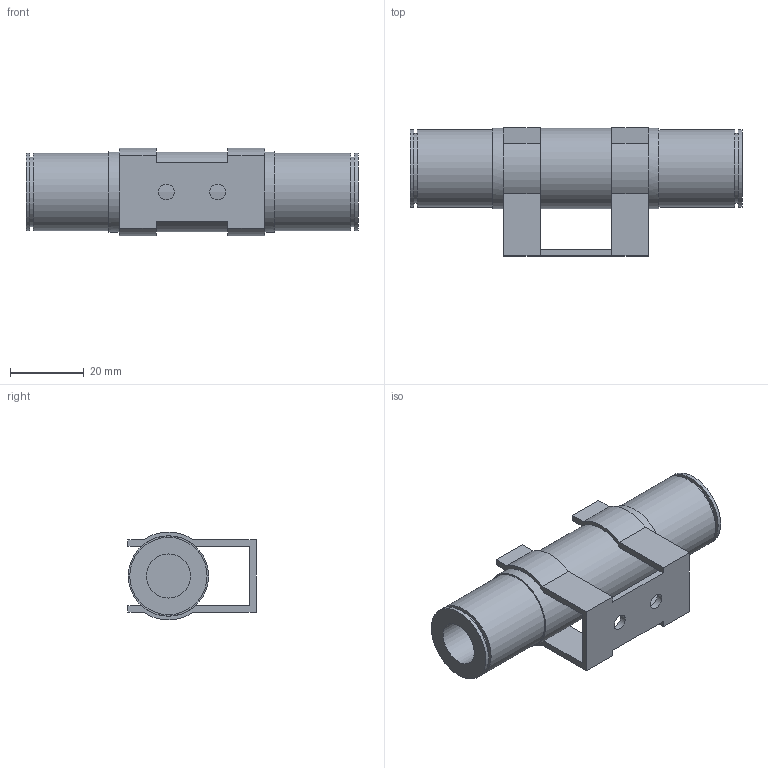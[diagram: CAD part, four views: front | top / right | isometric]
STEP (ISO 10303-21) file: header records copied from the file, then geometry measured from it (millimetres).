
FILE_DESCRIPTION(('STEP AP203'),'1');
FILE_NAME('BCVL-2012-C.stp','2025-07-18T01:09:53',(' '),(' '),'Spatial InterOp 3D',' ',' ');
FILE_SCHEMA(('CONFIG_CONTROL_DESIGN'));
Length unit declared in the file: millimetre
Products named in the file (1): 1
Bounding box: 90.2 x 34.8 x 23.81 mm (x, y, z)
Volume: 30723.5 mm3; surface area: 12088.2 mm2
Topology: 1 solids, 1 shells, 55 faces, 137 edges, 90 vertices
Faces by surface type: plane 40, cylinder 15
Full cylindrical faces by diameter (mm): 4.3 x2, 12 x2, 19 x2, 21 x4, 21.8 x1
Entity records: 1646 total; most frequent: DIRECTION 276, CARTESIAN_POINT 272, ORIENTED_EDGE 252, EDGE_CURVE 126, AXIS2_PLACEMENT_3D 94, VERTEX_POINT 90, LINE 88, VECTOR 88
